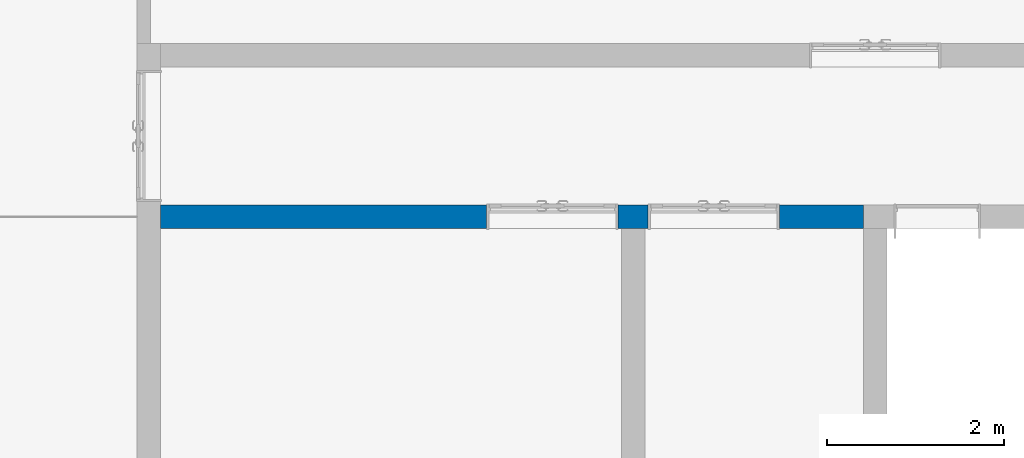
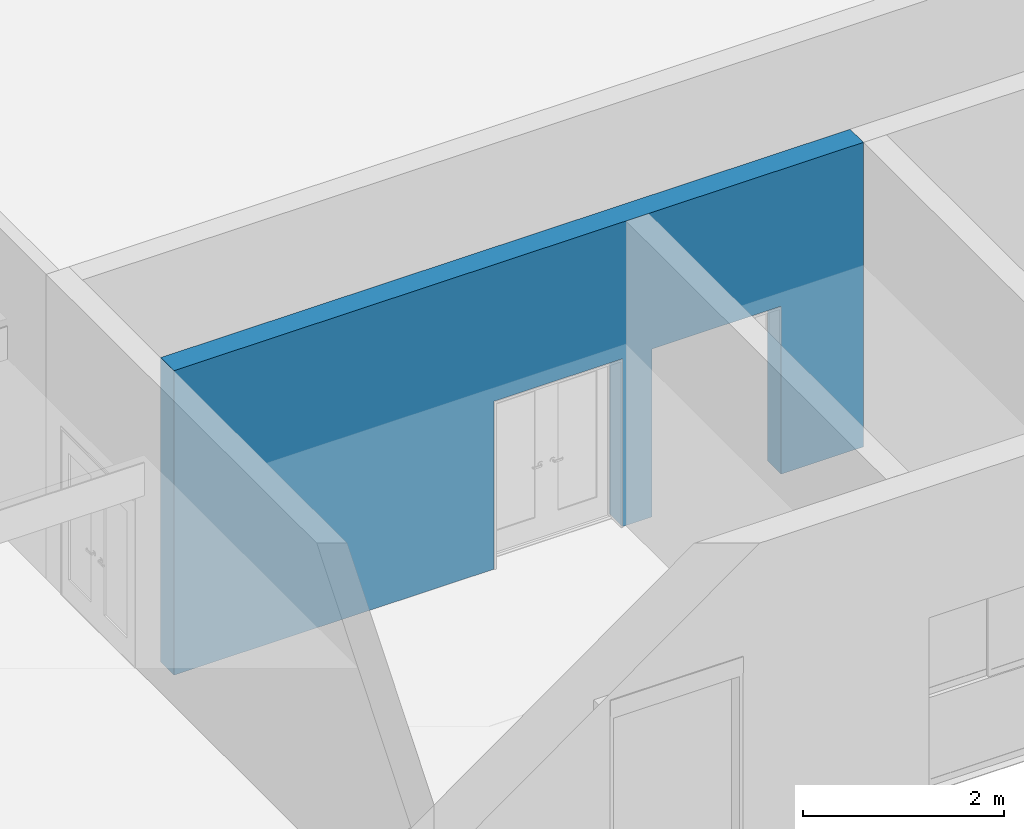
# One storey, part 3 of 15: 1 wall, 2 openings.
"""IFC4X3 building model written with IfcOpenShell, lengths in millimetres."""

from ifc_helpers import new_model, entity, si_unit, converted_unit, derived_unit, direction, frame, frame_2d, origin, place, context, subcontext, project, spatial, rectangle, extrude, material, layer, layer_set, type_object, element, save


model = new_model("IFC4X3")

# Units and contexts
model_context = context("Model", 3, precision=0.01, world=origin(), true_north=direction((6.12303176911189e-17, 1.0)))
body_context = subcontext(model_context, "Body", "Model", "MODEL_VIEW")
ifc_project = project(units=[si_unit("LENGTHUNIT", "METRE", prefix="MILLI"), si_unit("AREAUNIT", "SQUARE_METRE"), si_unit("VOLUMEUNIT", "CUBIC_METRE"), converted_unit("PLANEANGLEUNIT", "DEGREE", entity("IfcPlaneAngleMeasure", 0.0174532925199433), si_unit("PLANEANGLEUNIT", "RADIAN"), dimensions=[0, 0, 0, 0, 0, 0, 0]), si_unit("MASSUNIT", "GRAM", prefix="KILO"), derived_unit("MASSDENSITYUNIT", [(si_unit("MASSUNIT", "GRAM", prefix="KILO"), 1), (si_unit("LENGTHUNIT", "METRE"), -3)]), derived_unit("IONCONCENTRATIONUNIT", [(si_unit("MASSUNIT", "GRAM", prefix="KILO"), 1), (si_unit("LENGTHUNIT", "METRE"), -3)]), derived_unit("MOMENTOFINERTIAUNIT", [(si_unit("LENGTHUNIT", "METRE"), 4)]), si_unit("TIMEUNIT", "SECOND"), si_unit("FREQUENCYUNIT", "HERTZ"), si_unit("THERMODYNAMICTEMPERATUREUNIT", "DEGREE_CELSIUS"), derived_unit("THERMALTRANSMITTANCEUNIT", [(si_unit("MASSUNIT", "GRAM", prefix="KILO"), 1), (si_unit("THERMODYNAMICTEMPERATUREUNIT", "KELVIN"), -1), (si_unit("TIMEUNIT", "SECOND"), -3)]), derived_unit("THERMALCONDUCTANCEUNIT", [(si_unit("MASSUNIT", "GRAM", prefix="KILO"), 1), (si_unit("THERMODYNAMICTEMPERATUREUNIT", "KELVIN"), -1), (si_unit("TIMEUNIT", "SECOND"), -3), (si_unit("LENGTHUNIT", "METRE"), 1)]), derived_unit("VOLUMETRICFLOWRATEUNIT", [(si_unit("LENGTHUNIT", "METRE", prefix="DECI"), 3), (si_unit("TIMEUNIT", "SECOND"), -1)]), derived_unit("MASSFLOWRATEUNIT", [(si_unit("MASSUNIT", "GRAM", prefix="KILO"), 1), (si_unit("TIMEUNIT", "SECOND"), -1)]), derived_unit("ROTATIONALFREQUENCYUNIT", [(si_unit("TIMEUNIT", "SECOND"), -1)]), si_unit("ELECTRICCURRENTUNIT", "AMPERE"), si_unit("ELECTRICVOLTAGEUNIT", "VOLT"), si_unit("POWERUNIT", "WATT"), si_unit("FORCEUNIT", "NEWTON", prefix="KILO"), si_unit("ILLUMINANCEUNIT", "LUX"), si_unit("LUMINOUSFLUXUNIT", "LUMEN"), si_unit("LUMINOUSINTENSITYUNIT", "CANDELA"), si_unit("ENERGYUNIT", "JOULE"), derived_unit("USERDEFINED", [(si_unit("MASSUNIT", "GRAM", prefix="KILO"), -1), (si_unit("LENGTHUNIT", "METRE"), -2), (si_unit("TIMEUNIT", "SECOND"), 3), (si_unit("LUMINOUSFLUXUNIT", "LUMEN"), 1)]), derived_unit("USERDEFINED", [(si_unit("MASSUNIT", "GRAM", prefix="KILO"), 1), (si_unit("TIMEUNIT", "SECOND"), -3), (si_unit("LENGTHUNIT", "METRE"), 3), (si_unit("ELECTRICCURRENTUNIT", "AMPERE"), -2)]), derived_unit("SOUNDPOWERUNIT", [(si_unit("MASSUNIT", "GRAM", prefix="KILO"), 1), (si_unit("TIMEUNIT", "SECOND"), -3), (si_unit("LENGTHUNIT", "METRE"), 2)]), derived_unit("SOUNDPRESSUREUNIT", [(si_unit("MASSUNIT", "GRAM", prefix="KILO"), 1), (si_unit("LENGTHUNIT", "METRE"), -1), (si_unit("TIMEUNIT", "SECOND"), -2)]), derived_unit("LINEARVELOCITYUNIT", [(si_unit("LENGTHUNIT", "METRE"), 1), (si_unit("TIMEUNIT", "SECOND"), -1)]), si_unit("PRESSUREUNIT", "PASCAL"), derived_unit("USERDEFINED", [(si_unit("MASSUNIT", "GRAM", prefix="KILO"), 1), (si_unit("LENGTHUNIT", "METRE"), -2), (si_unit("TIMEUNIT", "SECOND"), -2)]), derived_unit("LINEARFORCEUNIT", [(si_unit("MASSUNIT", "GRAM", prefix="KILO"), 1), (si_unit("TIMEUNIT", "SECOND"), -2)]), derived_unit("PLANARFORCEUNIT", [(si_unit("MASSUNIT", "GRAM", prefix="KILO"), 1), (si_unit("LENGTHUNIT", "METRE"), -1), (si_unit("TIMEUNIT", "SECOND"), -2)]), derived_unit("SPECIFICHEATCAPACITYUNIT", [(si_unit("THERMODYNAMICTEMPERATUREUNIT", "KELVIN"), -1), (si_unit("LENGTHUNIT", "METRE"), 2), (si_unit("TIMEUNIT", "SECOND"), -2)]), derived_unit("HEATFLUXDENSITYUNIT", [(si_unit("MASSUNIT", "GRAM", prefix="KILO"), 1), (si_unit("TIMEUNIT", "SECOND"), -3)]), derived_unit("HEATINGVALUEUNIT", [(si_unit("LENGTHUNIT", "METRE"), 2), (si_unit("TIMEUNIT", "SECOND"), -2)]), derived_unit("VAPORPERMEABILITYUNIT", [(si_unit("LENGTHUNIT", "METRE"), -1), (si_unit("TIMEUNIT", "SECOND"), 1)]), derived_unit("DYNAMICVISCOSITYUNIT", [(si_unit("MASSUNIT", "GRAM", prefix="KILO"), 1), (si_unit("TIMEUNIT", "SECOND"), -1), (si_unit("LENGTHUNIT", "METRE"), -1)]), derived_unit("THERMALEXPANSIONCOEFFICIENTUNIT", [(si_unit("THERMODYNAMICTEMPERATUREUNIT", "KELVIN"), -1)]), derived_unit("MODULUSOFELASTICITYUNIT", [(si_unit("MASSUNIT", "GRAM", prefix="KILO"), 1), (si_unit("LENGTHUNIT", "METRE"), -1), (si_unit("TIMEUNIT", "SECOND"), -2)]), derived_unit("ISOTHERMALMOISTURECAPACITYUNIT", [(si_unit("MASSUNIT", "GRAM", prefix="KILO"), -1), (si_unit("LENGTHUNIT", "METRE"), 3)]), derived_unit("MOISTUREDIFFUSIVITYUNIT", [(si_unit("TIMEUNIT", "SECOND"), -1), (si_unit("LENGTHUNIT", "METRE"), 2)]), derived_unit("AREADENSITYUNIT", [(si_unit("MASSUNIT", "GRAM", prefix="KILO"), 1), (si_unit("LENGTHUNIT", "METRE"), 2)]), derived_unit("MASSPERLENGTHUNIT", [(si_unit("MASSUNIT", "GRAM", prefix="KILO"), 1), (si_unit("LENGTHUNIT", "METRE"), -1)]), derived_unit("THERMALRESISTANCEUNIT", [(si_unit("MASSUNIT", "GRAM", prefix="KILO"), -1), (si_unit("TIMEUNIT", "SECOND"), 3), (si_unit("THERMODYNAMICTEMPERATUREUNIT", "KELVIN"), 1)]), derived_unit("ACCELERATIONUNIT", [(si_unit("LENGTHUNIT", "METRE"), 1), (si_unit("TIMEUNIT", "SECOND"), -2)]), derived_unit("ANGULARVELOCITYUNIT", [(si_unit("TIMEUNIT", "SECOND"), -1), (si_unit("PLANEANGLEUNIT", "RADIAN"), 1)]), derived_unit("LINEARSTIFFNESSUNIT", [(si_unit("MASSUNIT", "GRAM", prefix="KILO"), 1), (si_unit("TIMEUNIT", "SECOND"), -2)]), derived_unit("WARPINGCONSTANTUNIT", [(si_unit("LENGTHUNIT", "METRE"), 6)]), derived_unit("LINEARMOMENTUNIT", [(si_unit("MASSUNIT", "GRAM", prefix="KILO"), 1), (si_unit("LENGTHUNIT", "METRE"), 1), (si_unit("TIMEUNIT", "SECOND"), -2)]), derived_unit("TORQUEUNIT", [(si_unit("MASSUNIT", "GRAM", prefix="KILO"), 1), (si_unit("LENGTHUNIT", "METRE"), 2), (si_unit("TIMEUNIT", "SECOND"), -2)])], contexts=[model_context])

# Site, building, storey
site_placement = place(None, origin())
site = spatial("IfcSite", under=ifc_project, at=site_placement, Name="Default", CompositionType="ELEMENT")
building_placement = place(site_placement, origin())
building = spatial("IfcBuilding", under=site, at=building_placement, Name="事務所ビル", CompositionType="ELEMENT")
storey_placement = place(building_placement, frame((0.0, 0.0, 4300.0)))
storey = spatial("IfcBuildingStorey", under=building, at=storey_placement, Name="2FL", CompositionType="ELEMENT", Elevation=4300.0)

# Wall, openings
ifc_material_1 = material(Name="せっこうボード", Category="一般")
ifc_layer_1 = layer(ifc_material_1, 15.0, Name="せっこうボード", Category="一般")
ifc_material_2 = material(Name="合板", Category="一般")
ifc_layer_2 = layer(ifc_material_2, 12.0, Name="合板", Category="一般")
ifc_material_3 = material(Name="天然木材", Category="一般")
ifc_layer_3 = layer(ifc_material_3, 210.0, Name="天然木材", Category="一般")
ifc_layer_4 = layer(ifc_material_2, 12.0, Name="合板", Category="一般")
ifc_layer_5 = layer(ifc_material_1, 15.0, Name="せっこうボード", Category="一般")
ifc_layer_set = layer_set([ifc_layer_1, ifc_layer_2, ifc_layer_3, ifc_layer_4, ifc_layer_5], Name="標準壁:GB-R15_構造用合板12_木210_構造用合板12_GB-R15")
wall_type = type_object("IfcWallType", Name="標準壁:GB-R15_構造用合板12_木210_構造用合板12_GB-R15", PredefinedType="STANDARD", material=ifc_layer_set)
wall_placement = place(storey_placement, frame((11052.0, 5460.0, 0.0)))
wall = element("IfcWall", 1, at=wall_placement, inside=storey, type_object=wall_type, material=ifc_layer_set, Name="標準壁:GB-R15_構造用合板12_木210_構造用合板12_GB-R15", ObjectType="標準壁:GB-R15_構造用合板12_木210_構造用合板12_GB-R15", PredefinedType="NOTDEFINED", context=body_context, shape_type="SweptSolid", body=[
    extrude(rectangle(XDim=7926.00000000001, YDim=264.000000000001, at=frame_2d((3963.0, -2.55795384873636e-13), x_axis=(-1.0, 0.0))), origin(), (0.0, 0.0, 1.0), 3700.0),
])
opening_1_placement = place(wall_placement, frame((3678.0, -132.0, -15.0)))
element("IfcOpeningElement", 2, at=opening_1_placement, cuts=wall, Name="鋼製_大枠_両開き_框:1400x2000:1", PredefinedType="OPENING", context=body_context, shape_type="SweptSolid", body=[
    extrude(rectangle(XDim=2055.00000000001, YDim=1480.0, at=frame_2d((1027.5, 739.999999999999), x_axis=(-1.0, 0.0))), frame((0.0, 0.0, 0.0), z_axis=(0.0, 1.0, 0.0), x_axis=(0.0, 0.0, 1.0)), (0.0, 0.0, 1.0), 264.0),
])
opening_2_placement = place(wall_placement, frame((5498.0, -132.0, -15.0)))
element("IfcOpeningElement", 3, at=opening_2_placement, cuts=wall, Name="鋼製_大枠_両開き_框:1400x2000:1", PredefinedType="OPENING", context=body_context, shape_type="SweptSolid", body=[
    extrude(rectangle(XDim=2055.00000000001, YDim=1480.0, at=frame_2d((1027.5, 739.999999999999), x_axis=(-1.0, 0.0))), frame((0.0, 0.0, 0.0), z_axis=(0.0, 1.0, 0.0), x_axis=(0.0, 0.0, 1.0)), (0.0, 0.0, 1.0), 264.0),
])

save(model, "model.ifc")
